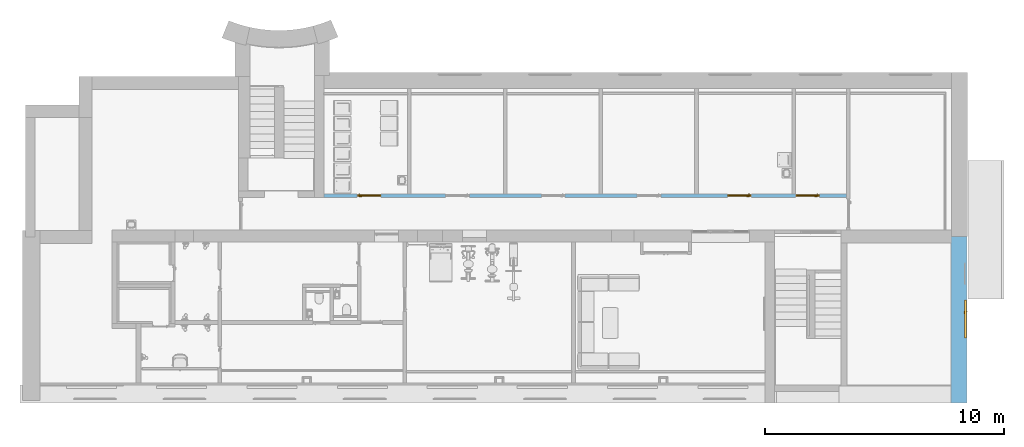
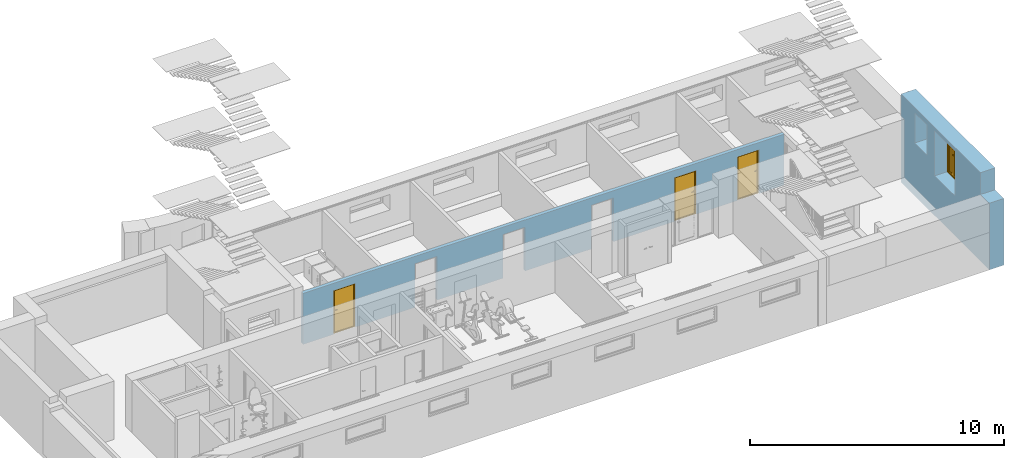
"""IFC2X3 building model written with IfcOpenShell, lengths in millimetres."""

import ifcopenshell
import ifcopenshell.guid

model = None  # the IFC model being written
_history = None  # IfcOwnerHistory: only IFC2X3 demands one
_inside = {}  # id of a spatial element -> (the spatial element, [elements in it])
_under = {}  # id of a project, library or spatial element -> (it, [spatial elements below it])
_declared = {}  # id of a project -> (the project, [libraries it declares])
_typed = {}  # id of a type object -> (the type object, [elements of that type])
_made_of = {}  # id of a material, layer set ... -> (it, [elements and type objects made of it])


def new_model(schema):
    """Start an empty IFC model of exactly this schema.

    Asked for "IFC4X3", IfcOpenShell would pick the latest addendum, in which some entities
    have other attributes; the version numbers below select the first issue.
    IFC2X3 requires an IfcOwnerHistory on every rooted entity: one is made here for all.
    """
    global model, _history
    if schema == "IFC4X3":
        model = ifcopenshell.file(schema_version=(4, 3, 0, 0))
    else:
        model = ifcopenshell.file(schema=schema)
    _inside.clear()
    _under.clear()
    _declared.clear()
    _typed.clear()
    _made_of.clear()
    _history = None
    if model.schema == "IFC2X3":
        org = make("IfcOrganization", Name="unknown")
        user = make(
            "IfcPersonAndOrganization",
            ThePerson=make("IfcPerson", FamilyName="unknown"),
            TheOrganization=org,
        )
        app = make(
            "IfcApplication",
            ApplicationDeveloper=org,
            Version="unknown",
            ApplicationFullName="unknown",
            ApplicationIdentifier="unknown",
        )
        _history = make(
            "IfcOwnerHistory",
            OwningUser=user,
            OwningApplication=app,
            ChangeAction="ADDED",
            CreationDate=0,
        )
    return model


def make(cls, **values):
    """One entity of the class cls with the attributes given. An attribute that is None is left unset."""
    return model.create_entity(
        cls, **{name: value for name, value in values.items() if value is not None}
    )


def entity(cls, *values):
    """Any entity or typed value of the class cls, its attributes in the order of the schema. None: left unset."""
    e = model.create_entity(cls)
    for i, value in enumerate(values):
        if value is not None:
            e[i] = value
    return e


def rooted(cls, **values):
    """An entity with a GlobalId (a new one), such as an element, a storey or a relation."""
    return make(cls, GlobalId=ifcopenshell.guid.new(), OwnerHistory=_history, **values)


def si_unit(unit_type, name, prefix=None):
    """IfcSIUnit, for example si_unit("LENGTHUNIT", "METRE", prefix="MILLI")."""
    return make("IfcSIUnit", UnitType=unit_type, Prefix=prefix, Name=name)


def converted_unit(unit_type, name, factor, base, dimensions=None, offset=None):
    """IfcConversionBasedUnit, such as the inch: factor (a typed value) times the base unit."""
    return make(
        "IfcConversionBasedUnit"
        if offset is None
        else "IfcConversionBasedUnitWithOffset",
        ConversionOffset=offset,
        Dimensions=None
        if dimensions is None
        else entity("IfcDimensionalExponents", *dimensions),
        UnitType=unit_type,
        Name=name,
        ConversionFactor=make(
            "IfcMeasureWithUnit", ValueComponent=factor, UnitComponent=base
        ),
    )


def derived_unit(unit_type, elements):
    """IfcDerivedUnit: a product of units, each with its exponent."""
    return make(
        "IfcDerivedUnit",
        Elements=[
            make("IfcDerivedUnitElement", Unit=unit, Exponent=power)
            for unit, power in elements
        ],
        UnitType=unit_type,
    )


def assignment(units):
    """IfcUnitAssignment: the units of a project."""
    return None if units is None else make("IfcUnitAssignment", Units=units)


def point(xyz):
    """IfcCartesianPoint."""
    return None if xyz is None else make("IfcCartesianPoint", Coordinates=xyz)


def direction(xyz):
    """IfcDirection."""
    return None if xyz is None else make("IfcDirection", DirectionRatios=xyz)


def frame(location, z_axis=None, x_axis=None):
    """IfcAxis2Placement3D, a coordinate frame: its origin and axes. An axis left out is left unset."""
    return make(
        "IfcAxis2Placement3D",
        Location=point(location),
        Axis=direction(z_axis),
        RefDirection=direction(x_axis),
    )


def frame_2d(location, x_axis=None):
    """IfcAxis2Placement2D, a coordinate frame in the plane: its origin and x axis."""
    return make(
        "IfcAxis2Placement2D", Location=point(location), RefDirection=direction(x_axis)
    )


def origin():
    """The frame at (0, 0, 0) with its axes left unset."""
    return frame((0.0, 0.0, 0.0))


def place(relative_to, where):
    """IfcLocalPlacement: puts the frame where relative to a parent placement (None: the world)."""
    return make(
        "IfcLocalPlacement", PlacementRelTo=relative_to, RelativePlacement=where
    )


def context(
    kind, dimensions, precision=None, world=None, true_north=None, identifier=None
):
    """IfcGeometricRepresentationContext, for example the 3D "Model" context."""
    return make(
        "IfcGeometricRepresentationContext",
        ContextIdentifier=identifier,
        ContextType=kind,
        CoordinateSpaceDimension=dimensions,
        Precision=precision,
        WorldCoordinateSystem=world,
        TrueNorth=true_north,
    )


def subcontext(parent, identifier, kind, view, scale=None):
    """IfcGeometricRepresentationSubContext, for example "Body" below "Model"."""
    return make(
        "IfcGeometricRepresentationSubContext",
        ContextIdentifier=identifier,
        ContextType=kind,
        ParentContext=parent,
        TargetScale=scale,
        TargetView=view,
    )


def project(units=None, contexts=None):
    """IfcProject with its units and contexts."""
    return rooted(
        "IfcProject",
        Name="project",
        RepresentationContexts=contexts,
        UnitsInContext=assignment(units),
    )


def spatial(cls, under=None, at=None, **own):
    """A site, building, storey or space (cls), placed at a placement, below another one or the project."""
    s = rooted(cls, ObjectPlacement=at, **own)
    if under is not None:
        _under.setdefault(under.id(), (under, []))[1].append(s)
    return s


def polyline(points):
    """IfcPolyline through the points."""
    return make("IfcPolyline", Points=[point(p) for p in points])


def profile(cls, at=None, kind="AREA", **sizes):
    """A parametric profile (cls). Its sizes go by their IFC names, for example OverallWidth=200.0."""
    return make(cls, ProfileType=kind, Position=at, **sizes)


def rectangle(**sizes):
    """IfcRectangleProfileDef."""
    return profile("IfcRectangleProfileDef", **sizes)


def extrude(swept, where, along, depth):
    """IfcExtrudedAreaSolid: the profile swept, set in the frame where, extruded along a direction by depth."""
    return make(
        "IfcExtrudedAreaSolid",
        SweptArea=swept,
        Position=where,
        ExtrudedDirection=direction(along),
        Depth=depth,
    )


def clip(a, b, op="DIFFERENCE"):
    """IfcBooleanClippingResult: the solid a cut by the half space b."""
    return make(
        "IfcBooleanClippingResult", Operator=op, FirstOperand=a, SecondOperand=b
    )


def bounded_halfspace(plane, agree, where, boundary):
    """IfcPolygonalBoundedHalfSpace: a half space limited to a polygon's prism."""
    return make(
        "IfcPolygonalBoundedHalfSpace",
        BaseSurface=make("IfcPlane", Position=plane),
        AgreementFlag=agree,
        Position=where,
        PolygonalBoundary=boundary,
    )


def faces_of(points, faces, orient=None, outer=None):
    """IfcFace entities. A face is a list of loops; a loop is a list of indices into points, from 0.

    orient and outer hold one flag for each loop. By default every Orientation is true, the
    first loop of a face is its IfcFaceOuterBound and the others are IfcFaceBound.
    """
    made = []
    for i, loops in enumerate(faces):
        bounds = []
        for j, loop in enumerate(loops):
            is_outer = j == 0 if outer is None else outer[i][j]
            bounds.append(
                make(
                    "IfcFaceOuterBound" if is_outer else "IfcFaceBound",
                    Bound=make("IfcPolyLoop", Polygon=[points[k] for k in loop]),
                    Orientation=True if orient is None else orient[i][j],
                )
            )
        made.append(make("IfcFace", Bounds=bounds))
    return made


def faceted_brep(points, faces, orient=None, outer=None, voids=None):
    """IfcFacetedBrep: a solid bounded by flat faces; with voids (closed shells), ...WithVoids."""
    shared = [point(p) for p in points]
    hull = make("IfcClosedShell", CfsFaces=faces_of(shared, faces, orient, outer))
    if voids is None:
        return make("IfcFacetedBrep", Outer=hull)
    return make(
        "IfcFacetedBrepWithVoids",
        Outer=hull,
        Voids=[
            make(cls, CfsFaces=faces_of(shared, fs, o, b)) for cls, fs, o, b in voids
        ],
    )


def shape(context_of_items, identifier, shape_type, items):
    """IfcShapeRepresentation: the items that make up one representation, for example the "Body"."""
    return make(
        "IfcShapeRepresentation",
        ContextOfItems=context_of_items,
        RepresentationIdentifier=identifier,
        RepresentationType=shape_type,
        Items=items,
    )


def source(mapping_origin, context_of_items, identifier, shape_type, items):
    """IfcRepresentationMap: a shape defined once, which mapped items show again and again."""
    return make(
        "IfcRepresentationMap",
        MappingOrigin=mapping_origin,
        MappedRepresentation=shape(context_of_items, identifier, shape_type, items),
    )


def transform(
    local_origin,
    x_axis=None,
    y_axis=None,
    z_axis=None,
    scale=None,
    scale2=None,
    scale3=None,
    uniform=True,
):
    """IfcCartesianTransformationOperator3D, or its non-uniform kind. x_axis, y_axis, z_axis: its Axis1, 2, 3."""
    if uniform:
        return make(
            "IfcCartesianTransformationOperator3D",
            Axis1=direction(x_axis),
            Axis2=direction(y_axis),
            LocalOrigin=point(local_origin),
            Scale=scale,
            Axis3=direction(z_axis),
        )
    return make(
        "IfcCartesianTransformationOperator3DnonUniform",
        Axis1=direction(x_axis),
        Axis2=direction(y_axis),
        LocalOrigin=point(local_origin),
        Scale=scale,
        Axis3=direction(z_axis),
        Scale2=scale2,
        Scale3=scale3,
    )


def mapped(mapping_source, mapping_target):
    """IfcMappedItem: shows the shape of a source again, moved by a transform."""
    return make(
        "IfcMappedItem", MappingSource=mapping_source, MappingTarget=mapping_target
    )


def material(Name=None, Category=None):
    """IfcMaterial."""
    return make("IfcMaterial", Name=Name, Category=Category)


def material_list(materials):
    """IfcMaterialList."""
    return make("IfcMaterialList", Materials=materials)


def layer(
    of_material, thickness, ventilated=None, Name=None, Category=None, Priority=None
):
    """IfcMaterialLayer: one layer of a wall or slab, of a material (None: an air gap)."""
    return make(
        "IfcMaterialLayer",
        Material=of_material,
        LayerThickness=thickness,
        IsVentilated=ventilated,
        Name=Name,
        Category=Category,
        Priority=Priority,
    )


def layer_set(layers, Name=None):
    """IfcMaterialLayerSet."""
    return make("IfcMaterialLayerSet", MaterialLayers=layers, LayerSetName=Name)


def layer_usage(for_layer_set, set_direction, sense, offset, extent=None):
    """IfcMaterialLayerSetUsage: how a layer set lies in its element."""
    return make(
        "IfcMaterialLayerSetUsage",
        ForLayerSet=for_layer_set,
        LayerSetDirection=set_direction,
        DirectionSense=sense,
        OffsetFromReferenceLine=offset,
        ReferenceExtent=extent,
    )


def made_of(thing, what):
    """Note that an element or type object is made of a material, layer set ...; save() writes the relation."""
    if what is not None:
        _made_of.setdefault(what.id(), (what, []))[1].append(thing)
    return thing


def type_object(cls, material=None, **own):
    """A type object (cls), such as IfcWallType, which elements share."""
    return made_of(rooted(cls, **own), material)


def type_shapes(of_type, sources):
    """Give a type object the sources (RepresentationMaps) that its elements show as mapped items."""
    of_type.RepresentationMaps = sources


def element(
    cls,
    number,
    at=None,
    inside=None,
    cuts=None,
    type_object=None,
    material=None,
    context=None,
    identifier="Body",
    shape_type=None,
    held_by="IfcProductDefinitionShape",
    body=None,
    shapes=None,
    **own,
):
    """One element of the class cls, such as IfcWall. Its Tag is "e" and its number.

    at: its placement. inside: the storey or other place that contains it. cuts: it is an
    opening in that element (IfcRelVoidsElement). A single representation is given by context,
    identifier, shape_type and body (its items); several are given by shapes. held_by: the class
    of the entity that holds the representations. save() writes the other relations.
    """
    e = rooted(cls, Tag="e%d" % number, ObjectPlacement=at, **own)
    if body is not None:
        shapes = [shape(context, identifier, shape_type, body)]
    if shapes is not None:
        e.Representation = make(held_by, Representations=shapes)
    if inside is not None:
        _inside.setdefault(inside.id(), (inside, []))[1].append(e)
    if cuts is not None:
        rooted(
            "IfcRelVoidsElement", RelatingBuildingElement=cuts, RelatedOpeningElement=e
        )
    if type_object is not None:
        _typed.setdefault(type_object.id(), (type_object, []))[1].append(e)
    return made_of(e, material)


def fill(opening, filler):
    """IfcRelFillsElement: the door or window that sits in an opening."""
    return rooted(
        "IfcRelFillsElement",
        RelatingOpeningElement=opening,
        RelatedBuildingElement=filler,
    )


def aggregate(whole, parts):
    """IfcRelAggregates: a whole, such as a stair, and the parts it consists of."""
    return rooted("IfcRelAggregates", RelatingObject=whole, RelatedObjects=parts)


def save(model, path):
    """Write the relations noted so far, then the file.

    IfcRelAggregates (storeys below a building ...), IfcRelContainedInSpatialStructure (elements
    in a storey), IfcRelDefinesByType, IfcRelAssociatesMaterial and IfcRelDeclares: one each for
    every whole, place, type object, material and project.
    """
    for whole, parts in _under.values():
        aggregate(whole, parts)
    for where, things in _inside.values():
        rooted(
            "IfcRelContainedInSpatialStructure",
            RelatedElements=things,
            RelatingStructure=where,
        )
    for kind, things in _typed.values():
        rooted("IfcRelDefinesByType", RelatedObjects=things, RelatingType=kind)
    for what, things in _made_of.values():
        rooted("IfcRelAssociatesMaterial", RelatedObjects=things, RelatingMaterial=what)
    for by, libraries in _declared.values():
        rooted("IfcRelDeclares", RelatingContext=by, RelatedDefinitions=libraries)
    model.write(path)


model = new_model("IFC2X3")

# Units and contexts
model_context = context("Model", 3, precision=0.01, world=origin(), true_north=direction((6.12303176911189e-17, 1.0)))
body_context = subcontext(model_context, "Body", "Model", "MODEL_VIEW")
ifc_project = project(units=[si_unit("LENGTHUNIT", "METRE", prefix="MILLI"), si_unit("AREAUNIT", "SQUARE_METRE"), si_unit("VOLUMEUNIT", "CUBIC_METRE"), converted_unit("PLANEANGLEUNIT", "DEGREE", entity("IfcRatioMeasure", 0.0174532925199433), si_unit("PLANEANGLEUNIT", "RADIAN"), dimensions=[0, 0, 0, 0, 0, 0, 0]), si_unit("MASSUNIT", "GRAM", prefix="KILO"), derived_unit("MASSDENSITYUNIT", [(si_unit("MASSUNIT", "GRAM", prefix="KILO"), 1), (si_unit("LENGTHUNIT", "METRE"), -3)]), si_unit("TIMEUNIT", "SECOND"), si_unit("FREQUENCYUNIT", "HERTZ"), si_unit("THERMODYNAMICTEMPERATUREUNIT", "DEGREE_CELSIUS"), derived_unit("THERMALTRANSMITTANCEUNIT", [(si_unit("MASSUNIT", "GRAM", prefix="KILO"), 1), (si_unit("THERMODYNAMICTEMPERATUREUNIT", "KELVIN"), -1), (si_unit("TIMEUNIT", "SECOND"), -3)]), derived_unit("VOLUMETRICFLOWRATEUNIT", [(si_unit("LENGTHUNIT", "METRE"), 3), (si_unit("TIMEUNIT", "SECOND"), -1)]), si_unit("ELECTRICCURRENTUNIT", "AMPERE"), si_unit("ELECTRICVOLTAGEUNIT", "VOLT"), si_unit("POWERUNIT", "WATT"), si_unit("FORCEUNIT", "NEWTON", prefix="KILO"), si_unit("ILLUMINANCEUNIT", "LUX"), si_unit("LUMINOUSFLUXUNIT", "LUMEN"), si_unit("LUMINOUSINTENSITYUNIT", "CANDELA"), derived_unit("USERDEFINED", [(si_unit("MASSUNIT", "GRAM", prefix="KILO"), -1), (si_unit("LENGTHUNIT", "METRE"), -2), (si_unit("TIMEUNIT", "SECOND"), 3), (si_unit("LUMINOUSFLUXUNIT", "LUMEN"), 1)]), derived_unit("LINEARVELOCITYUNIT", [(si_unit("LENGTHUNIT", "METRE"), 1), (si_unit("TIMEUNIT", "SECOND"), -1)]), si_unit("PRESSUREUNIT", "PASCAL"), derived_unit("USERDEFINED", [(si_unit("LENGTHUNIT", "METRE"), -2), (si_unit("MASSUNIT", "GRAM", prefix="KILO"), 1), (si_unit("TIMEUNIT", "SECOND"), -2)]), derived_unit("LINEARFORCEUNIT", [(si_unit("MASSUNIT", "GRAM", prefix="KILO"), 1), (si_unit("LENGTHUNIT", "METRE"), 1), (si_unit("TIMEUNIT", "SECOND"), -2), (si_unit("LENGTHUNIT", "METRE"), -1)]), derived_unit("PLANARFORCEUNIT", [(si_unit("MASSUNIT", "GRAM", prefix="KILO"), 1), (si_unit("LENGTHUNIT", "METRE"), 1), (si_unit("TIMEUNIT", "SECOND"), -2), (si_unit("LENGTHUNIT", "METRE"), -2)])], contexts=[model_context])

# Site, building, storey
site_placement = place(None, origin())
site = spatial("IfcSite", under=ifc_project, at=site_placement, Name="Default", CompositionType="ELEMENT")
building_placement = place(site_placement, origin())
building = spatial("IfcBuilding", under=site, at=building_placement, Name="SMA ARH", CompositionType="ELEMENT")
storey_1_placement = place(building_placement, frame((0.0, 0.0, -2800.0)))
storey_1 = spatial("IfcBuildingStorey", under=building, at=storey_1_placement, Name="0 Sokkel", CompositionType="ELEMENT", Elevation=-2800.0)

# Wall, openings
ifc_material_1 = material(Name="_ol.olev sein")
ifc_layer_1 = layer(ifc_material_1, 665.0)
ifc_layer_set_1 = layer_set([ifc_layer_1], Name="Basic Wall:Generic - 665mm")
ifc_layer_usage_1 = layer_usage(ifc_layer_set_1, "AXIS2", "NEGATIVE", 332.5)
wall_type_1 = type_object("IfcWallType", Name="Basic Wall:Generic - 665mm", PredefinedType="STANDARD", material=ifc_layer_set_1)
wall_1_placement = place(storey_1_placement, frame((38547.5000000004, 6520.0, -400.0), z_axis=(0.0, 0.0, 1.0), x_axis=(0.0, -1.0, 0.0)))
wall_1 = element("IfcWallStandardCase", 1, at=wall_1_placement, inside=storey_1, type_object=wall_type_1, material=ifc_layer_usage_1, Name="Basic Wall:Generic - 665mm", ObjectType="Basic Wall:Generic - 665mm", context=body_context, shape_type="Clipping", body=[
    clip(clip(extrude(rectangle(XDim=6945.00000000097, YDim=665.0, at=frame_2d((3747.50000000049, -3.69482222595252e-13), x_axis=(-1.0, 0.0))), origin(), (0.0, 0.0, 1.0), 4242.37172766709), bounded_halfspace(frame((6520.0, -332.500000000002, 3200.0), z_axis=(-1.0, 0.0, 0.0), x_axis=(0.0, -1.0, 0.0)), True, frame((6520.0, -332.500000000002, 3200.0), z_axis=(-1.0, 0.0, 0.0), x_axis=(0.0, -1.0, 0.0)), polyline([(0.0, 0.0), (0.0, 1042.37172766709), (-374.900999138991, 1042.37172766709), (-654.900999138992, 1042.37172766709), (-665.0, 1042.37172766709), (-665.0, 0.0), (0.0, 0.0)]))), bounded_halfspace(frame((6520.0, 332.499999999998, 3200.0), z_axis=(0.0, 0.0, -1.0), x_axis=(-1.0, 0.0, 0.0)), True, frame((6520.0, 332.499999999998, 3200.0), z_axis=(0.0, 0.0, -1.0), x_axis=(-1.0, 0.0, 0.0)), polyline([(0.0, 0.0), (-700.0, 0.0), (-700.0, -665.0), (0.0, -665.0), (0.0, 0.0)]))),
])
opening_1_placement = place(wall_1_placement, origin())
element("IfcOpeningElement", 2, at=opening_1_placement, cuts=wall_1, Name="Basic Wall:Generic - 665mm", ObjectType="Opening", context=body_context, shape_type="SweptSolid", body=[
    extrude(rectangle(XDim=1300.0, YDim=2130.0, at=frame_2d((-1.70530256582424e-13, -5.6843418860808e-13), x_axis=(1.0, 0.0))), frame((2285.0, -1481.59900086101, 5180.0), z_axis=(0.0, 1.0, 0.0), x_axis=(0.0, 0.0, 1.0)), (0.0, 0.0, 1.0), 3048.0),
])
opening_2_placement = place(wall_1_placement, frame((2922.05581008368, -332.500000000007, 1915.0)))
opening_2 = element("IfcOpeningElement", 3, at=opening_2_placement, cuts=wall_1, Name="SMA_D02, 2-poolne:VU-AL-03- 1600x2100:1", ObjectType="Opening", context=body_context, shape_type="SweptSolid", body=[
    extrude(rectangle(XDim=2149.99999999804, YDim=1600.0, at=frame_2d((1074.99999999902, 800.0), x_axis=(1.0, 0.0))), frame((0.0, 0.0, 0.0), z_axis=(0.0, 1.0, 0.0), x_axis=(0.0, 0.0, 1.0)), (0.0, 0.0, 1.0), 665.0),
])
opening_3_placement = place(wall_1_placement, frame((1355.0, -332.500000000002, 2540.0)))
element("IfcOpeningElement", 4, at=opening_3_placement, cuts=wall_1, Name="SMA_W1, 1-jaotus1:A-00_950x1450:1", ObjectType="Opening", context=body_context, shape_type="SweptSolid", body=[
    extrude(rectangle(XDim=1450.0, YDim=950.0, at=frame_2d((725.0, 475.0), x_axis=(1.0, 0.0))), frame((0.0, 0.0, 0.0), z_axis=(0.0, 1.0, 0.0), x_axis=(0.0, 0.0, 1.0)), (0.0, 0.0, 1.0), 665.0),
])

# Storey
storey_2_placement = place(building_placement, origin())
storey_2 = spatial("IfcBuildingStorey", under=building, at=storey_2_placement, Name="1 Korrus", CompositionType="ELEMENT", Elevation=0.0)

# Door
ifc_material_2 = material(Name="EST. Metall. Plekk. Värvitud. RAL7023 (Concrete grey)")
ifc_material_3 = material(Name="EST. Klaas. 3x. Default")
ifc_material_list_1 = material_list([ifc_material_2, ifc_material_3])
ifc_material_4 = material(Name="<Unnamed>")
ifc_material_list_2 = material_list([ifc_material_2, ifc_material_4, ifc_material_2, ifc_material_4, ifc_material_4, ifc_material_2, ifc_material_3])
door_style_1 = type_object("IfcDoorStyle", Name="SMA_D02, 2-poolne:VU-AL-03- 1600x2100", ConstructionType="NOTDEFINED", OperationType="DOUBLE_DOOR_SINGLE_SWING", ParameterTakesPrecedence=False, Sizeable=False, material=ifc_material_list_2)
shared_shape_1 = source(origin(), body_context, "Body", "Brep", [
    faceted_brep([(487.499999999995, 555.0, 1100.0), (487.499999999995, 593.0, 1100.0), (462.499999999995, 593.0, 1100.0), (462.499999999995, 550.0, 1100.0), (582.499999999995, 550.0, 1100.0), (582.499999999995, 555.0, 1100.0), (487.499999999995, 555.0, 1075.0), (582.499999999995, 555.0, 1075.0), (582.499999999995, 550.0, 1075.0), (462.499999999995, 550.0, 1075.0), (462.499999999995, 593.0, 1075.0), (487.499999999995, 593.0, 1075.0)], [[[0, 1, 2, 3, 4, 5]], [[6, 7, 8, 9, 10, 11]], [[1, 0, 6, 11]], [[2, 1, 11, 10]], [[3, 2, 10, 9]], [[4, 3, 9, 8]], [[5, 4, 8, 7]], [[0, 5, 7, 6]]]),
    faceted_brep([(500.0, 593.0, 1125.0), (500.0, 595.0, 1125.0), (450.0, 595.0, 1125.0), (450.0, 593.0, 1125.0), (500.0, 593.0, 1005.0), (450.0, 593.0, 1005.0), (450.0, 595.0, 1005.0), (500.0, 595.0, 1005.0)], [[[0, 1, 2, 3]], [[4, 5, 6, 7]], [[1, 0, 4, 7]], [[2, 1, 7, 6]], [[3, 2, 6, 5]], [[0, 3, 5, 4]]]),
    faceted_brep([(487.499999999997, 685.0, 1100.0), (582.499999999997, 685.0, 1100.0), (582.499999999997, 690.0, 1100.0), (462.499999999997, 690.0, 1100.0), (462.499999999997, 647.0, 1100.0), (487.499999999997, 647.0, 1100.0), (487.499999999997, 685.0, 1075.0), (487.499999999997, 647.0, 1075.0), (462.499999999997, 647.0, 1075.0), (462.499999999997, 690.0, 1075.0), (582.499999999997, 690.0, 1075.0), (582.499999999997, 685.0, 1075.0)], [[[0, 1, 2, 3, 4, 5]], [[6, 7, 8, 9, 10, 11]], [[5, 7, 6, 0]], [[4, 8, 7, 5]], [[3, 9, 8, 4]], [[2, 10, 9, 3]], [[1, 11, 10, 2]], [[0, 6, 11, 1]]]),
    faceted_brep([(500.0, 647.0, 1125.0), (450.0, 647.0, 1125.0), (450.0, 645.0, 1125.0), (500.0, 645.0, 1125.0), (500.0, 647.0, 1005.0), (500.0, 645.0, 1005.0), (450.0, 645.0, 1005.0), (450.0, 647.0, 1005.0)], [[[0, 1, 2, 3]], [[4, 5, 6, 7]], [[3, 5, 4, 0]], [[2, 6, 5, 3]], [[1, 7, 6, 2]], [[0, 4, 7, 1]]]),
    faceted_brep([(1524.5, 555.0, 30.0), (1524.5, 555.0, 0.0), (1524.5, 595.0, 0.0), (1524.5, 595.0, 20.0), (1524.5, 595.0, 30.0), (75.4999999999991, 555.0, 30.0), (75.4999999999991, 595.0, 30.0), (75.4999999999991, 595.0, 20.0), (75.4999999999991, 595.0, 0.0), (75.4999999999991, 555.0, 0.0), (70.0, 595.0, 0.0), (70.0, 645.0, 0.0), (1530.0, 645.0, 0.0), (1530.0, 595.0, 0.0), (1530.0, 645.0, 20.0), (1530.0, 595.0, 20.0), (70.0, 645.0, 20.0), (70.0, 595.0, 20.0)], [[[0, 1, 2, 3, 4]], [[5, 6, 7, 8, 9]], [[1, 0, 5, 9]], [[2, 1, 9, 8, 10, 11, 12, 13]], [[6, 4, 3, 7]], [[0, 4, 6, 5]], [[14, 15, 13, 12]], [[16, 11, 10, 17]], [[15, 14, 16, 17, 7, 3]], [[13, 15, 3, 2]], [[14, 12, 11, 16]], [[17, 10, 8, 7]]]),
    faceted_brep([(1590.0, 555.0, 0.0), (1524.5, 555.0, 0.0), (1524.5, 595.0, 0.0), (1530.0, 595.0, 0.0), (1530.0, 645.0, 0.0), (1590.0, 645.0, 0.0), (1590.0, 555.0, 2140.0), (10.0, 555.0, 2140.0), (10.0, 555.0, 0.0), (75.5000000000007, 555.0, 0.0), (75.500000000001, 555.0, 2074.49999999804), (1524.5, 555.0, 2074.49999999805), (1524.5, 595.0, 2074.49999999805), (75.5000000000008, 595.0, 2074.49999999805), (75.5000000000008, 595.0, 0.0), (70.0, 595.0, 0.0), (70.0, 595.0, 2080.0), (1530.0, 595.0, 2080.0), (1530.0, 645.0, 2080.0), (70.0, 645.0, 2080.0), (70.0, 645.0, 0.0), (10.0, 645.0, 0.0), (10.0, 645.0, 2140.0), (1590.0, 645.0, 2140.0)], [[[0, 1, 2, 3, 4, 5]], [[1, 0, 6, 7, 8, 9, 10, 11]], [[2, 1, 11, 12]], [[3, 2, 12, 13, 14, 15, 16, 17]], [[4, 3, 17, 18]], [[5, 4, 18, 19, 20, 21, 22, 23]], [[0, 5, 23, 6]], [[8, 7, 22, 21]], [[9, 8, 21, 20, 15, 14]], [[10, 9, 14, 13]], [[16, 15, 20, 19]], [[11, 10, 13, 12]], [[17, 16, 19, 18]], [[7, 6, 23, 22]]]),
    faceted_brep([(145.0, 610.0, 95.0), (315.0, 610.0, 95.0), (315.0, 610.0, 2005.0), (145.0, 610.0, 2005.0), (145.0, 630.0, 95.0), (145.0, 630.0, 2005.0), (315.0, 630.0, 2005.0), (315.0, 630.0, 95.0)], [[[0, 1, 2, 3]], [[4, 5, 6, 7]], [[1, 0, 4, 7]], [[2, 1, 7, 6]], [[3, 2, 6, 5]], [[0, 3, 5, 4]]]),
    faceted_brep([(485.0, 610.0, 95.0), (1455.0, 610.0, 95.0), (1455.0, 610.0, 2005.0), (485.0, 610.0, 2005.0), (485.0, 630.0, 95.0), (485.0, 630.0, 2005.0), (1455.0, 630.0, 2005.0), (1455.0, 630.0, 95.0)], [[[0, 1, 2, 3]], [[4, 5, 6, 7]], [[1, 0, 4, 7]], [[2, 1, 7, 6]], [[3, 2, 6, 5]], [[0, 3, 5, 4]]]),
    faceted_brep([(400.0, 595.0, 2080.0), (70.0, 595.0, 2080.0), (70.0, 595.0, 20.0), (400.0, 595.0, 20.0), (145.0, 595.0, 95.0), (145.0, 595.0, 2005.0), (315.0, 595.0, 2005.0), (315.0, 595.0, 95.0), (400.0, 645.0, 2080.0), (400.0, 645.0, 20.0), (70.0, 645.0, 20.0), (70.0, 645.0, 2080.0), (145.0, 645.0, 2005.0), (145.0, 645.0, 95.0), (315.0, 645.0, 95.0), (315.0, 645.0, 2005.0)], [[[0, 1, 2, 3], [4, 5, 6, 7]], [[8, 9, 10, 11], [12, 13, 14, 15]], [[1, 0, 8, 11]], [[2, 1, 11, 10]], [[3, 2, 10, 9]], [[0, 3, 9, 8]], [[12, 5, 4, 13]], [[13, 4, 7, 14]], [[14, 7, 6, 15]], [[5, 12, 15, 6]]]),
    faceted_brep([(400.0, 595.0, 2080.0), (400.0, 595.0, 20.0), (1530.0, 595.0, 20.0), (1530.0, 595.0, 2080.0), (485.0, 595.0, 95.0), (485.0, 595.0, 2005.0), (1455.0, 595.0, 2005.0), (1455.0, 595.0, 95.0), (400.0, 645.0, 2080.0), (1530.0, 645.0, 2080.0), (1530.0, 645.0, 20.0), (400.0, 645.0, 20.0), (485.0, 645.0, 2005.0), (485.0, 645.0, 95.0), (1455.0, 645.0, 95.0), (1455.0, 645.0, 2005.0)], [[[0, 1, 2, 3], [4, 5, 6, 7]], [[8, 9, 10, 11], [12, 13, 14, 15]], [[1, 0, 8, 11]], [[2, 1, 11, 10]], [[3, 2, 10, 9]], [[0, 3, 9, 8]], [[12, 5, 4, 13]], [[13, 4, 7, 14]], [[14, 7, 6, 15]], [[5, 12, 15, 6]]]),
])
type_shapes(door_style_1, [shared_shape_1])
door_1_placement = place(opening_2_placement, origin())
door_1 = element("IfcDoor", 5, at=door_1_placement, inside=storey_2, type_object=door_style_1, material=ifc_material_list_1, Name="SMA_D02, 2-poolne:VU-AL-03- 1600x2100", ObjectType="SMA_D02, 2-poolne:VU-AL-03- 1600x2100", OverallHeight=2149.99999999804, OverallWidth=1600.0, context=body_context, shape_type="MappedRepresentation", body=[
    mapped(shared_shape_1, transform((0.0, 0.0, 0.0), scale=1.0)),
])

fill(opening_2, door_1)

# Wall, openings, doors
ifc_material_5 = material(Name="EST. Müüritis. Väikeplokk. Kergkruusplokk")
ifc_layer_2 = layer(ifc_material_5, 150.0)
ifc_layer_set_2 = layer_set([ifc_layer_2], Name="Basic Wall:SS-01_ 150mm soklikorruse seinad")
ifc_layer_usage_2 = layer_usage(ifc_layer_set_2, "AXIS2", "NEGATIVE", 75.0)
wall_type_2 = type_object("IfcWallType", Name="Basic Wall:SS-01_ 150mm soklikorruse seinad", PredefinedType="STANDARD", material=ifc_layer_set_2)
wall_2_placement = place(storey_1_placement, frame((12000.0, 7950.0, 0.0)))
wall_2 = element("IfcWallStandardCase", 6, at=wall_2_placement, inside=storey_1, type_object=wall_type_2, material=ifc_layer_usage_2, Name="Basic Wall:SS-01_ 150mm soklikorruse seinad", ObjectType="Basic Wall:SS-01_ 150mm soklikorruse seinad", context=body_context, shape_type="SweptSolid", body=[
    extrude(rectangle(XDim=21850.0, YDim=150.000000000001, at=frame_2d((10925.0, -1.91846538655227e-13), x_axis=(-1.0, 0.0))), origin(), (0.0, 0.0, 1.0), 2450.0),
])
opening_4_placement = place(wall_2_placement, frame((1390.0, -75.0, 0.0)))
opening_4 = element("IfcOpeningElement", 7, at=opening_4_placement, cuts=wall_2, Name="SMA_D01, 1-poolne:SU-M-02 - 1000x2100 EI-30:1", ObjectType="Opening", context=body_context, shape_type="SweptSolid", body=[
    extrude(rectangle(XDim=2099.99999999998, YDim=1000.0, at=frame_2d((1049.99999999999, 500.0), x_axis=(1.0, 0.0))), frame((0.0, 0.0, 0.0), z_axis=(0.0, 1.0, 0.0), x_axis=(0.0, 0.0, 1.0)), (0.0, 0.0, 1.0), 150.0),
])
opening_5_placement = place(wall_2_placement, frame((5090.0, -75.0, 0.0)))
element("IfcOpeningElement", 8, at=opening_5_placement, cuts=wall_2, Name="SMA_D01, 1-poolne:SU-M-04 - 1000x2100 EI-60:1", ObjectType="Opening", context=body_context, shape_type="SweptSolid", body=[
    extrude(rectangle(XDim=2099.99999999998, YDim=1000.0, at=frame_2d((1049.99999999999, 500.0), x_axis=(1.0, 0.0))), frame((0.0, 0.0, 0.0), z_axis=(0.0, 1.0, 0.0), x_axis=(0.0, 0.0, 1.0)), (0.0, 0.0, 1.0), 150.0),
])
opening_6_placement = place(wall_2_placement, frame((9090.0, -75.0, 0.0)))
element("IfcOpeningElement", 9, at=opening_6_placement, cuts=wall_2, Name="SMA_D01, 1-poolne:SU-M-04 - 1000x2100 EI-60:1", ObjectType="Opening", context=body_context, shape_type="SweptSolid", body=[
    extrude(rectangle(XDim=2099.99999999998, YDim=1000.0, at=frame_2d((1049.99999999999, 500.0), x_axis=(1.0, 0.0))), frame((0.0, 0.0, 0.0), z_axis=(0.0, 1.0, 0.0), x_axis=(0.0, 0.0, 1.0)), (0.0, 0.0, 1.0), 150.0),
])
opening_7_placement = place(wall_2_placement, frame((13090.0, -75.0, 0.0)))
element("IfcOpeningElement", 10, at=opening_7_placement, cuts=wall_2, Name="SMA_D01, 1-poolne:SU-M-04 - 1000x2100 EI-60:1", ObjectType="Opening", context=body_context, shape_type="SweptSolid", body=[
    extrude(rectangle(XDim=2099.99999999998, YDim=1000.0, at=frame_2d((1049.99999999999, 500.0), x_axis=(1.0, 0.0))), frame((0.0, 0.0, 0.0), z_axis=(0.0, 1.0, 0.0), x_axis=(0.0, 0.0, 1.0)), (0.0, 0.0, 1.0), 150.0),
])
opening_8_placement = place(wall_2_placement, frame((16870.0, -75.0, 0.0)))
opening_8 = element("IfcOpeningElement", 11, at=opening_8_placement, cuts=wall_2, Name="SMA_D01, 1-poolne:SU-M-03 - 1000x2100:1", ObjectType="Opening", context=body_context, shape_type="SweptSolid", body=[
    extrude(rectangle(XDim=2099.99999999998, YDim=1000.0, at=frame_2d((1049.99999999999, 500.0), x_axis=(1.0, 0.0))), frame((0.0, 0.0, 0.0), z_axis=(0.0, 1.0, 0.0), x_axis=(0.0, 0.0, 1.0)), (0.0, 0.0, 1.0), 150.0),
])
opening_9_placement = place(wall_2_placement, frame((19720.0, -75.0, 0.0)))
opening_9 = element("IfcOpeningElement", 12, at=opening_9_placement, cuts=wall_2, Name="SMA_D01, 1-poolne:SU-M-02 - 1000x2100 EI-30:1", ObjectType="Opening", context=body_context, shape_type="SweptSolid", body=[
    extrude(rectangle(XDim=2099.99999999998, YDim=1000.0, at=frame_2d((1049.99999999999, 499.999999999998), x_axis=(1.0, 0.0))), frame((0.0, 0.0, 0.0), z_axis=(0.0, 1.0, 0.0), x_axis=(0.0, 0.0, 1.0)), (0.0, 0.0, 1.0), 150.0),
])
ifc_material_6 = material(Name="EST. Metall. Alumiinium. Värvitud. RAL7023 (Concrete grey)")
ifc_material_list_3 = material_list([ifc_material_4, ifc_material_4, ifc_material_4, ifc_material_6, ifc_material_6, ifc_material_3, ifc_material_6])
door_style_2 = type_object("IfcDoorStyle", Name="SMA_D01, 1-poolne:SU-M-02 - 1000x2100 EI-30", ConstructionType="NOTDEFINED", OperationType="NOTDEFINED", ParameterTakesPrecedence=False, Sizeable=False, material=ifc_material_list_3)
shared_shape_2 = source(origin(), body_context, "Body", "Brep", [
    faceted_brep([(110.0, 40.0, 1112.5), (110.0, 78.0, 1112.5), (85.0, 78.0, 1112.5), (85.0, 35.0, 1112.5), (205.0, 35.0, 1112.5), (205.0, 40.0, 1112.5), (110.0, 40.0, 1087.5), (205.0, 40.0, 1087.5), (205.0, 35.0, 1087.5), (85.0, 35.0, 1087.5), (85.0, 78.0, 1087.5), (110.0, 78.0, 1087.5)], [[[0, 1, 2, 3, 4, 5]], [[6, 7, 8, 9, 10, 11]], [[1, 0, 6, 11]], [[2, 1, 11, 10]], [[3, 2, 10, 9]], [[4, 3, 9, 8]], [[5, 4, 8, 7]], [[0, 5, 7, 6]]]),
    faceted_brep([(122.499999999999, 78.0, 1137.5), (122.499999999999, 80.0, 1137.5), (72.4999999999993, 80.0, 1137.5), (72.4999999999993, 78.0, 1137.5), (122.499999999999, 78.0, 1017.5), (72.4999999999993, 78.0, 1017.5), (72.4999999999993, 80.0, 1017.5), (122.499999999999, 80.0, 1017.5)], [[[0, 1, 2, 3]], [[4, 5, 6, 7]], [[1, 0, 4, 7]], [[2, 1, 7, 6]], [[3, 2, 6, 5]], [[0, 3, 5, 4]]]),
    faceted_brep([(110.0, 170.0, 1112.5), (205.0, 170.0, 1112.5), (205.0, 175.0, 1112.5), (85.0, 175.0, 1112.5), (85.0, 132.0, 1112.5), (110.0, 132.0, 1112.5), (110.0, 170.0, 1087.5), (110.0, 132.0, 1087.5), (85.0, 132.0, 1087.5), (85.0, 175.0, 1087.5), (205.0, 175.0, 1087.5), (205.0, 170.0, 1087.5)], [[[0, 1, 2, 3, 4, 5]], [[6, 7, 8, 9, 10, 11]], [[5, 7, 6, 0]], [[4, 8, 7, 5]], [[3, 9, 8, 4]], [[2, 10, 9, 3]], [[1, 11, 10, 2]], [[0, 6, 11, 1]]]),
    faceted_brep([(122.499999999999, 132.0, 1137.5), (72.4999999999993, 132.0, 1137.5), (72.4999999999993, 130.0, 1137.5), (122.499999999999, 130.0, 1137.5), (122.499999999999, 132.0, 1017.5), (122.499999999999, 130.0, 1017.5), (72.4999999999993, 130.0, 1017.5), (72.4999999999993, 132.0, 1017.5)], [[[0, 1, 2, 3]], [[4, 5, 6, 7]], [[3, 5, 4, 0]], [[2, 6, 5, 3]], [[1, 7, 6, 2]], [[0, 4, 7, 1]]]),
    faceted_brep([(950.0, 40.0, 30.0), (950.0, 40.0, 0.0), (950.0, 80.0, 0.0), (950.0, 80.0, 20.0), (950.0, 80.0, 30.0), (50.0, 40.0, 30.0), (50.0, 80.0, 30.0), (50.0, 80.0, 20.0), (50.0, 80.0, 0.0), (50.0, 40.0, 0.0), (35.0, 80.0, 0.0), (35.0, 130.0, 0.0), (965.0, 130.0, 0.0), (965.0, 80.0, 0.0), (965.0, 130.0, 20.0), (965.0, 80.0, 20.0), (35.0, 130.0, 20.0), (35.0, 80.0, 20.0)], [[[0, 1, 2, 3, 4]], [[5, 6, 7, 8, 9]], [[1, 0, 5, 9]], [[2, 1, 9, 8, 10, 11, 12, 13]], [[6, 4, 3, 7]], [[0, 4, 6, 5]], [[14, 15, 13, 12]], [[16, 11, 10, 17]], [[15, 14, 16, 17, 7, 3]], [[13, 15, 3, 2]], [[14, 12, 11, 16]], [[17, 10, 8, 7]]]),
    faceted_brep([(990.0, 40.0, 0.0), (950.0, 40.0, 0.0), (950.0, 80.0, 0.0), (965.0, 80.0, 0.0), (965.0, 130.0, 0.0), (990.0, 130.0, 0.0), (990.0, 40.0, 2090.0), (10.0, 40.0, 2090.0), (10.0, 40.0, 0.0), (50.0, 40.0, 0.0), (50.0, 40.0, 2050.0), (950.0, 40.0, 2050.0), (950.0, 80.0, 2050.0), (50.0, 80.0, 2050.0), (50.0, 80.0, 0.0), (35.0, 80.0, 0.0), (35.0, 80.0, 2065.0), (965.0, 80.0, 2065.0), (965.0, 130.0, 2065.0), (35.0, 130.0, 2065.0), (35.0, 130.0, 0.0), (10.0, 130.0, 0.0), (10.0, 130.0, 2090.0), (990.0, 130.0, 2090.0)], [[[0, 1, 2, 3, 4, 5]], [[1, 0, 6, 7, 8, 9, 10, 11]], [[2, 1, 11, 12]], [[3, 2, 12, 13, 14, 15, 16, 17]], [[4, 3, 17, 18]], [[5, 4, 18, 19, 20, 21, 22, 23]], [[0, 5, 23, 6]], [[8, 7, 22, 21]], [[9, 8, 21, 20, 15, 14]], [[10, 9, 14, 13]], [[16, 15, 20, 19]], [[11, 10, 13, 12]], [[17, 16, 19, 18]], [[7, 6, 23, 22]]]),
    faceted_brep([(35.0, 80.0, 2065.0), (35.0, 80.0, 20.0), (965.0, 80.0, 20.0), (965.0, 80.0, 2065.0), (35.0, 130.0, 2065.0), (965.0, 130.0, 2065.0), (965.0, 130.0, 20.0), (35.0, 130.0, 20.0)], [[[0, 1, 2, 3]], [[4, 5, 6, 7]], [[1, 0, 4, 7]], [[2, 1, 7, 6]], [[3, 2, 6, 5]], [[0, 3, 5, 4]]]),
])
type_shapes(door_style_2, [shared_shape_2])
door_2_placement = place(opening_4_placement, origin())
door_2 = element("IfcDoor", 13, at=door_2_placement, inside=storey_1, type_object=door_style_2, material=ifc_material_6, Name="SMA_D01, 1-poolne:SU-M-02 - 1000x2100 EI-30", ObjectType="SMA_D01, 1-poolne:SU-M-02 - 1000x2100 EI-30", OverallHeight=2099.99999999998, OverallWidth=1000.0, context=body_context, shape_type="MappedRepresentation", body=[
    mapped(shared_shape_2, transform((0.0, 0.0, 0.0), scale=1.0)),
])
fill(opening_4, door_2)
ifc_material_list_4 = material_list([ifc_material_6, ifc_material_4, ifc_material_4, ifc_material_4, ifc_material_6, ifc_material_3, ifc_material_6])
door_style_3 = type_object("IfcDoorStyle", Name="SMA_D01, 1-poolne:SU-M-03 - 1000x2100", ConstructionType="NOTDEFINED", OperationType="NOTDEFINED", ParameterTakesPrecedence=False, Sizeable=False, material=ifc_material_list_4)
shared_shape_3 = source(origin(), body_context, "Body", "Brep", [
    faceted_brep([(890.0, 40.0, 1112.5), (795.0, 40.0, 1112.5), (795.0, 35.0, 1112.5), (915.0, 35.0, 1112.5), (915.0, 78.0, 1112.5), (890.0, 78.0, 1112.5), (890.0, 40.0, 1087.5), (890.0, 78.0, 1087.5), (915.0, 78.0, 1087.5), (915.0, 35.0, 1087.5), (795.0, 35.0, 1087.5), (795.0, 40.0, 1087.5)], [[[0, 1, 2, 3, 4, 5]], [[6, 7, 8, 9, 10, 11]], [[5, 7, 6, 0]], [[4, 8, 7, 5]], [[3, 9, 8, 4]], [[2, 10, 9, 3]], [[1, 11, 10, 2]], [[0, 6, 11, 1]]]),
    faceted_brep([(877.500000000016, 78.0, 1137.5), (927.500000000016, 78.0, 1137.5), (927.500000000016, 80.0, 1137.5), (877.500000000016, 80.0, 1137.5), (877.500000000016, 78.0, 1017.5), (877.500000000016, 80.0, 1017.5), (927.500000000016, 80.0, 1017.5), (927.500000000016, 78.0, 1017.5)], [[[0, 1, 2, 3]], [[4, 5, 6, 7]], [[3, 5, 4, 0]], [[2, 6, 5, 3]], [[1, 7, 6, 2]], [[0, 4, 7, 1]]]),
    faceted_brep([(890.0, 170.0, 1112.5), (890.0, 132.0, 1112.5), (915.0, 132.0, 1112.5), (915.0, 175.0, 1112.5), (795.0, 175.0, 1112.5), (795.0, 170.0, 1112.5), (890.0, 170.0, 1087.5), (795.0, 170.0, 1087.5), (795.0, 175.0, 1087.5), (915.0, 175.0, 1087.5), (915.0, 132.0, 1087.5), (890.0, 132.0, 1087.5)], [[[0, 1, 2, 3, 4, 5]], [[6, 7, 8, 9, 10, 11]], [[1, 0, 6, 11]], [[2, 1, 11, 10]], [[3, 2, 10, 9]], [[4, 3, 9, 8]], [[5, 4, 8, 7]], [[0, 5, 7, 6]]]),
    faceted_brep([(877.500000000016, 132.0, 1137.5), (877.500000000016, 130.0, 1137.5), (927.500000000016, 130.0, 1137.5), (927.500000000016, 132.0, 1137.5), (877.500000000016, 132.0, 1017.5), (927.500000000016, 132.0, 1017.5), (927.500000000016, 130.0, 1017.5), (877.500000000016, 130.0, 1017.5)], [[[0, 1, 2, 3]], [[4, 5, 6, 7]], [[1, 0, 4, 7]], [[2, 1, 7, 6]], [[3, 2, 6, 5]], [[0, 3, 5, 4]]]),
    faceted_brep([(50.0, 40.0, 30.0), (50.0, 80.0, 30.0), (50.0, 80.0, 20.0), (50.0, 80.0, 0.0), (50.0, 40.0, 0.0), (950.0, 40.0, 30.0), (950.0, 40.0, 0.0), (950.0, 80.0, 0.0), (950.0, 80.0, 20.0), (950.0, 80.0, 30.0), (35.0, 80.0, 0.0), (35.0, 130.0, 0.0), (965.0, 130.0, 0.0), (965.0, 80.0, 0.0), (35.0, 130.0, 20.0), (35.0, 80.0, 20.0), (965.0, 130.0, 20.0), (965.0, 80.0, 20.0)], [[[0, 1, 2, 3, 4]], [[5, 6, 7, 8, 9]], [[4, 6, 5, 0]], [[3, 10, 11, 12, 13, 7, 6, 4]], [[9, 8, 2, 1]], [[0, 5, 9, 1]], [[14, 11, 10, 15]], [[16, 17, 13, 12]], [[15, 2, 8, 17, 16, 14]], [[10, 3, 2, 15]], [[14, 16, 12, 11]], [[17, 8, 7, 13]]]),
    faceted_brep([(10.0, 40.0, 0.0), (10.0, 130.0, 0.0), (35.0, 130.0, 0.0), (35.0, 80.0, 0.0), (50.0, 80.0, 0.0), (50.0, 40.0, 0.0), (50.0, 40.0, 2050.0), (950.0, 40.0, 2050.0), (950.0, 40.0, 0.0), (990.0, 40.0, 0.0), (990.0, 40.0, 2090.0), (10.0, 40.0, 2090.0), (50.0, 80.0, 2050.0), (35.0, 80.0, 2065.0), (965.0, 80.0, 2065.0), (965.0, 80.0, 0.0), (950.0, 80.0, 0.0), (950.0, 80.0, 2050.0), (35.0, 130.0, 2065.0), (10.0, 130.0, 2090.0), (990.0, 130.0, 2090.0), (990.0, 130.0, 0.0), (965.0, 130.0, 0.0), (965.0, 130.0, 2065.0)], [[[0, 1, 2, 3, 4, 5]], [[5, 6, 7, 8, 9, 10, 11, 0]], [[4, 12, 6, 5]], [[3, 13, 14, 15, 16, 17, 12, 4]], [[2, 18, 13, 3]], [[1, 19, 20, 21, 22, 23, 18, 2]], [[0, 11, 19, 1]], [[9, 21, 20, 10]], [[8, 16, 15, 22, 21, 9]], [[7, 17, 16, 8]], [[14, 23, 22, 15]], [[6, 12, 17, 7]], [[13, 18, 23, 14]], [[10, 20, 19, 11]]]),
    faceted_brep([(965.0, 80.0, 2065.0), (35.0, 80.0, 2065.0), (35.0, 80.0, 20.0), (965.0, 80.0, 20.0), (965.0, 130.0, 2065.0), (965.0, 130.0, 20.0), (35.0, 130.0, 20.0), (35.0, 130.0, 2065.0)], [[[0, 1, 2, 3]], [[4, 5, 6, 7]], [[3, 5, 4, 0]], [[2, 6, 5, 3]], [[1, 7, 6, 2]], [[0, 4, 7, 1]]]),
])
type_shapes(door_style_3, [shared_shape_3])
door_3_placement = place(opening_8_placement, origin())
door_3 = element("IfcDoor", 14, at=door_3_placement, inside=storey_1, type_object=door_style_3, material=ifc_material_6, Name="SMA_D01, 1-poolne:SU-M-03 - 1000x2100", ObjectType="SMA_D01, 1-poolne:SU-M-03 - 1000x2100", OverallHeight=2099.99999999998, OverallWidth=999.999999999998, context=body_context, shape_type="MappedRepresentation", body=[
    mapped(shared_shape_3, transform((0.0, 0.0, 0.0), scale=1.0)),
])
fill(opening_8, door_3)
ifc_material_list_5 = material_list([ifc_material_4, ifc_material_4, ifc_material_4, ifc_material_6, ifc_material_3, ifc_material_6, ifc_material_6])
door_style_4 = type_object("IfcDoorStyle", Name="SMA_D01, 1-poolne:SU-M-02 - 1000x2100 EI-30", ConstructionType="NOTDEFINED", OperationType="NOTDEFINED", ParameterTakesPrecedence=False, Sizeable=False, material=ifc_material_list_5)
shared_shape_4 = source(origin(), body_context, "Body", "Brep", [
    faceted_brep([(890.0, 40.0, 1112.5), (795.0, 40.0, 1112.5), (795.0, 35.0, 1112.5), (915.0, 35.0, 1112.5), (915.0, 78.0, 1112.5), (890.0, 78.0, 1112.5), (890.0, 40.0, 1087.5), (890.0, 78.0, 1087.5), (915.0, 78.0, 1087.5), (915.0, 35.0, 1087.5), (795.0, 35.0, 1087.5), (795.0, 40.0, 1087.5)], [[[0, 1, 2, 3, 4, 5]], [[6, 7, 8, 9, 10, 11]], [[5, 7, 6, 0]], [[4, 8, 7, 5]], [[3, 9, 8, 4]], [[2, 10, 9, 3]], [[1, 11, 10, 2]], [[0, 6, 11, 1]]]),
    faceted_brep([(877.500000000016, 78.0, 1137.5), (927.500000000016, 78.0, 1137.5), (927.500000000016, 80.0, 1137.5), (877.500000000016, 80.0, 1137.5), (877.500000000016, 78.0, 1017.5), (877.500000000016, 80.0, 1017.5), (927.500000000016, 80.0, 1017.5), (927.500000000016, 78.0, 1017.5)], [[[0, 1, 2, 3]], [[4, 5, 6, 7]], [[3, 5, 4, 0]], [[2, 6, 5, 3]], [[1, 7, 6, 2]], [[0, 4, 7, 1]]]),
    faceted_brep([(890.0, 170.0, 1112.5), (890.0, 132.0, 1112.5), (915.0, 132.0, 1112.5), (915.0, 175.0, 1112.5), (795.0, 175.0, 1112.5), (795.0, 170.0, 1112.5), (890.0, 170.0, 1087.5), (795.0, 170.0, 1087.5), (795.0, 175.0, 1087.5), (915.0, 175.0, 1087.5), (915.0, 132.0, 1087.5), (890.0, 132.0, 1087.5)], [[[0, 1, 2, 3, 4, 5]], [[6, 7, 8, 9, 10, 11]], [[1, 0, 6, 11]], [[2, 1, 11, 10]], [[3, 2, 10, 9]], [[4, 3, 9, 8]], [[5, 4, 8, 7]], [[0, 5, 7, 6]]]),
    faceted_brep([(877.500000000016, 132.0, 1137.5), (877.500000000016, 130.0, 1137.5), (927.500000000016, 130.0, 1137.5), (927.500000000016, 132.0, 1137.5), (877.500000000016, 132.0, 1017.5), (927.500000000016, 132.0, 1017.5), (927.500000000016, 130.0, 1017.5), (877.500000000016, 130.0, 1017.5)], [[[0, 1, 2, 3]], [[4, 5, 6, 7]], [[1, 0, 4, 7]], [[2, 1, 7, 6]], [[3, 2, 6, 5]], [[0, 3, 5, 4]]]),
    faceted_brep([(50.0, 40.0, 30.0), (50.0, 80.0, 30.0), (50.0, 80.0, 20.0), (50.0, 80.0, 0.0), (50.0, 40.0, 0.0), (950.0, 40.0, 30.0), (950.0, 40.0, 0.0), (950.0, 80.0, 0.0), (950.0, 80.0, 20.0), (950.0, 80.0, 30.0), (35.0, 80.0, 0.0), (35.0, 130.0, 0.0), (965.0, 130.0, 0.0), (965.0, 80.0, 0.0), (35.0, 130.0, 20.0), (35.0, 80.0, 20.0), (965.0, 130.0, 20.0), (965.0, 80.0, 20.0)], [[[0, 1, 2, 3, 4]], [[5, 6, 7, 8, 9]], [[4, 6, 5, 0]], [[3, 10, 11, 12, 13, 7, 6, 4]], [[9, 8, 2, 1]], [[0, 5, 9, 1]], [[14, 11, 10, 15]], [[16, 17, 13, 12]], [[15, 2, 8, 17, 16, 14]], [[10, 3, 2, 15]], [[14, 16, 12, 11]], [[17, 8, 7, 13]]]),
    faceted_brep([(10.0, 40.0, 0.0), (10.0, 130.0, 0.0), (35.0, 130.0, 0.0), (35.0, 80.0, 0.0), (50.0, 80.0, 0.0), (50.0, 40.0, 0.0), (50.0, 40.0, 2050.0), (950.0, 40.0, 2050.0), (950.0, 40.0, 0.0), (990.0, 40.0, 0.0), (990.0, 40.0, 2090.0), (10.0, 40.0, 2090.0), (50.0, 80.0, 2050.0), (35.0, 80.0, 2065.0), (965.0, 80.0, 2065.0), (965.0, 80.0, 0.0), (950.0, 80.0, 0.0), (950.0, 80.0, 2050.0), (35.0, 130.0, 2065.0), (10.0, 130.0, 2090.0), (990.0, 130.0, 2090.0), (990.0, 130.0, 0.0), (965.0, 130.0, 0.0), (965.0, 130.0, 2065.0)], [[[0, 1, 2, 3, 4, 5]], [[5, 6, 7, 8, 9, 10, 11, 0]], [[4, 12, 6, 5]], [[3, 13, 14, 15, 16, 17, 12, 4]], [[2, 18, 13, 3]], [[1, 19, 20, 21, 22, 23, 18, 2]], [[0, 11, 19, 1]], [[9, 21, 20, 10]], [[8, 16, 15, 22, 21, 9]], [[7, 17, 16, 8]], [[14, 23, 22, 15]], [[6, 12, 17, 7]], [[13, 18, 23, 14]], [[10, 20, 19, 11]]]),
    faceted_brep([(965.0, 80.0, 2065.0), (35.0, 80.0, 2065.0), (35.0, 80.0, 20.0), (965.0, 80.0, 20.0), (965.0, 130.0, 2065.0), (965.0, 130.0, 20.0), (35.0, 130.0, 20.0), (35.0, 130.0, 2065.0)], [[[0, 1, 2, 3]], [[4, 5, 6, 7]], [[3, 5, 4, 0]], [[2, 6, 5, 3]], [[1, 7, 6, 2]], [[0, 4, 7, 1]]]),
])
type_shapes(door_style_4, [shared_shape_4])
door_4_placement = place(opening_9_placement, origin())
door_4 = element("IfcDoor", 15, at=door_4_placement, inside=storey_1, type_object=door_style_4, material=ifc_material_6, Name="SMA_D01, 1-poolne:SU-M-02 - 1000x2100 EI-30", ObjectType="SMA_D01, 1-poolne:SU-M-02 - 1000x2100 EI-30", OverallHeight=2099.99999999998, OverallWidth=999.999999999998, context=body_context, shape_type="MappedRepresentation", body=[
    mapped(shared_shape_4, transform((0.0, 0.0, 0.0), scale=1.0)),
])
fill(opening_9, door_4)

save(model, "model.ifc")
